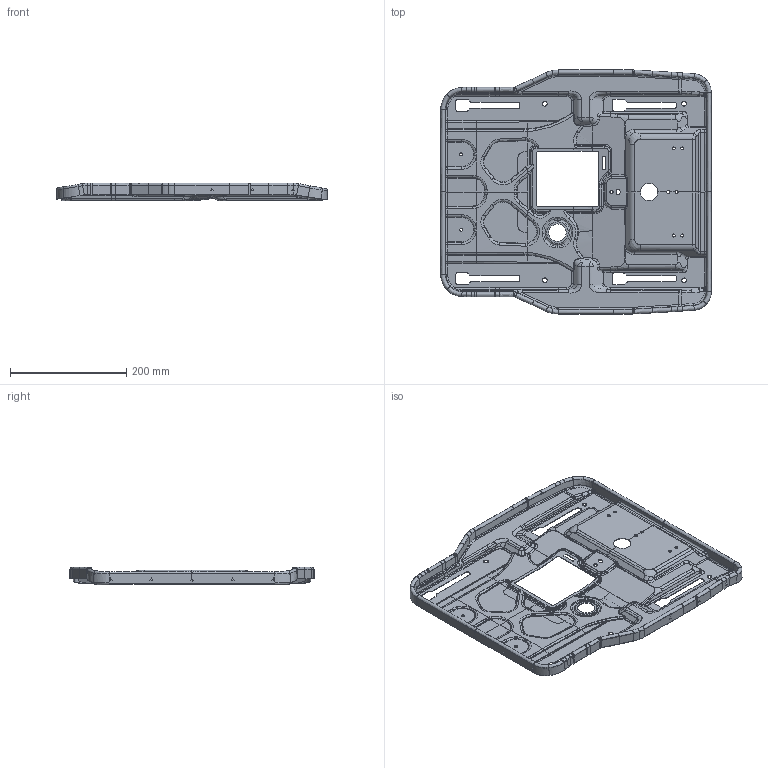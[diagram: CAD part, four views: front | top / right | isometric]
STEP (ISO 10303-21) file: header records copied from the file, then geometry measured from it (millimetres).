
FILE_DESCRIPTION(('CATIA V5 STEP Exchange'),'2;1');
FILE_NAME('E:\Gao Bingchuan\02-重卡\2.0平台\04-减震器\05-方案数据\01-2.0减震器运动校核数据-20210804\SS3.1\方案\3.1 底座模块化更新数据_-20240222\SHT0017073.stp','2024-02-22T11:13:41+00:00',('none'),('none'),'CATIA Version 5 Release 20 GA (IN-10)','CATIA V5 STEP AP203 Edition 2','none');
FILE_SCHEMA(('AP203_CONFIGURATION_CONTROLLED_3D_DESIGN_OF_MECHANICAL_PARTS_AND_ASSEMBLIES_MIM_LF { 1 0 10303 403 2 1 2}'));
Products named in the file (1): SHT0017073
Bounding box: 466.21 x 420.71 x 30.66 mm (x, y, z)
Volume: 230243.1 mm3; surface area: 465916.3 mm2
Topology: 1 solids, 1 shells, 2054 faces, 5160 edges, 3055 vertices
Faces by surface type: bspline 1121, cylinder 568, plane 281, torus 44, cone 16, sphere 12, extrusion 12
Entity records: 206488 total; most frequent: CARTESIAN_POINT 168548, ORIENTED_EDGE 10250, EDGE_CURVE 5125, B_SPLINE_CURVE_WITH_KNOTS 3511, DIRECTION 3372, VERTEX_POINT 3055, EDGE_LOOP 2116, ADVANCED_FACE 2054
